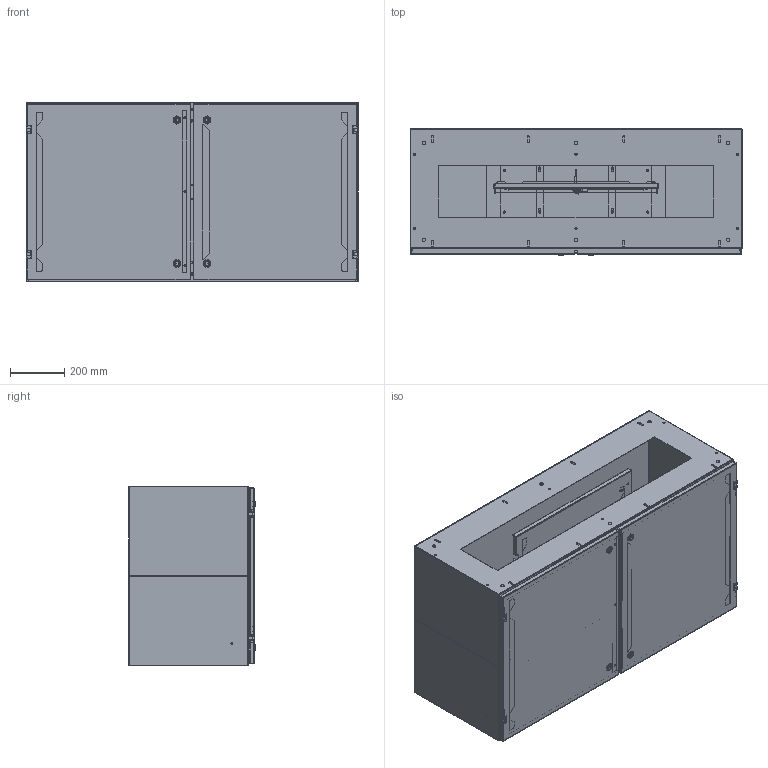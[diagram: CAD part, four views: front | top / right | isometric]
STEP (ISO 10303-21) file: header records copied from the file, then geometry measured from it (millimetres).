
FILE_DESCRIPTION( ( 'Unknown' ), '1' );
FILE_NAME( 'Q:/2000 SERIES/BASE UNITS/WEB DRAWINGS/STEP/2CSB264818.stp', 'Unknown', ( 'Unknown' ), ( 'Unknown' ), 'XStep 1.0', 'Unknown', ' ' );
FILE_SCHEMA( ( 'CONFIG_CONTROL_DESIGN' ) );
Length unit declared in the file: millimetre
Products named in the file (55): Assem1; Assem2; Assem3; Assem4; Assem5; Assem6; Assem7; Assem8; Assem9; 1; 2; 3; 4; 5; 6; 7; 8; 9; 10; 11; 12; 13; 14; 15; 16; 17; 18; 19; 20; 21; 22; 23; 24; 25; 26; 27; 28; 29; 30; 31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
Bounding box: 1219.2 x 463.11 x 660.4 mm (x, y, z)
Volume: 20747355.9 mm3; surface area: 22819952.5 mm2
Topology: 197 solids, 197 shells, 3791 faces, 9021 edges, 5798 vertices
Faces by surface type: plane 2426, cylinder 1094, bspline 244, torus 15, cone 12
Full cylindrical faces by diameter (mm): 5 x12, 5.537 x10, 5.969 x6, 6 x6, 6.096 x6, 6.35 x122, 7.137 x169, 7.938 x126, 9.804 x5, 9.83 x12, 12.7 x12, 13.335 x6, 15.875 x6, 16.002 x6, 19.5 x6, 19.939 x6, 25.4 x6
Entity records: 33176 total; most frequent: CARTESIAN_POINT 9195, DIRECTION 4354, ORIENTED_EDGE 4204, EDGE_CURVE 2102, AXIS2_PLACEMENT_3D 1528, VERTEX_POINT 1421, LINE 1298, VECTOR 1298
